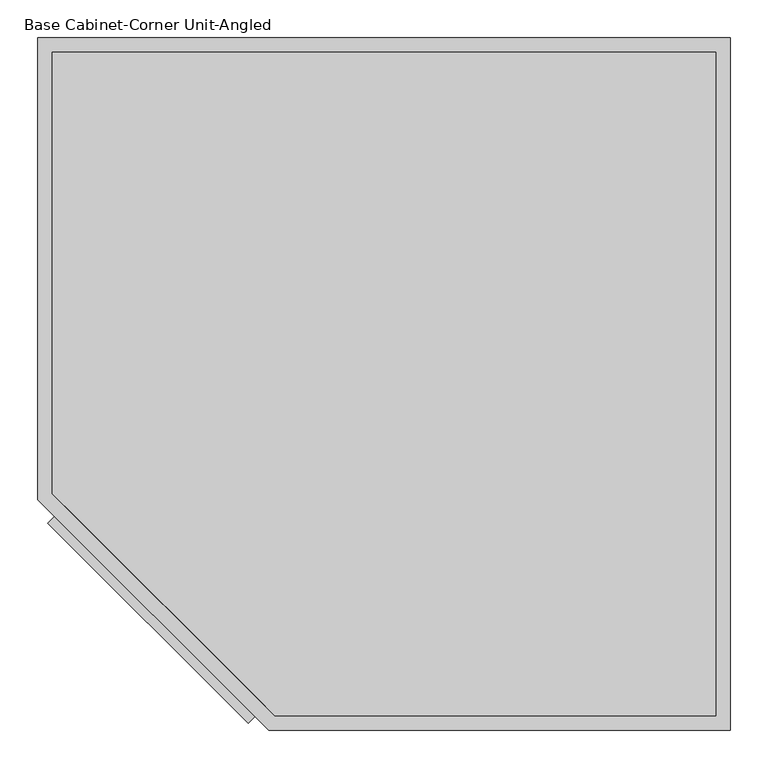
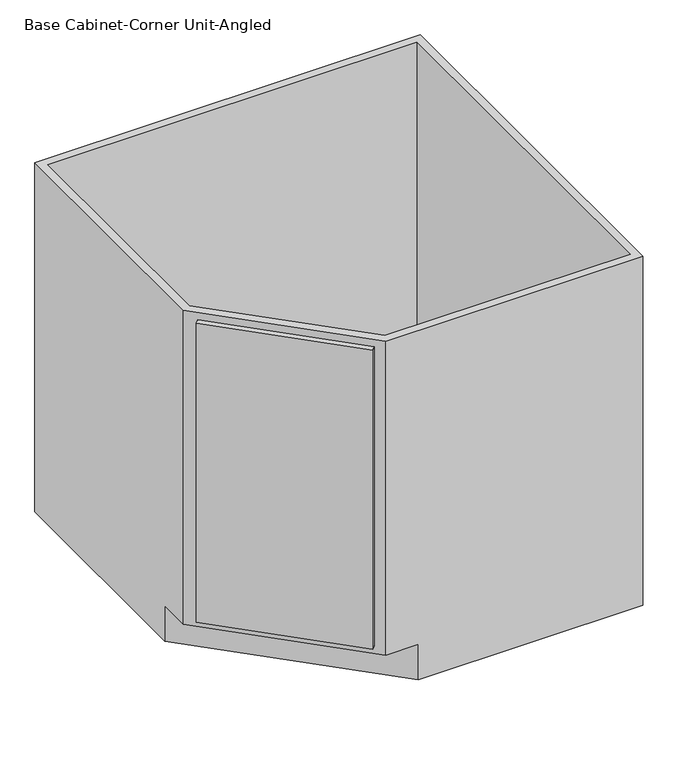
"""IFC4 building model written with IfcOpenShell, lengths in millimetres: furniture geometry, Base Cabinet-Corner Unit-Angled : WOODWFR."""

from ifc_helpers import new_model, si_unit, frame, origin, place, context, project, spatial, polyline, outline, extrude, faceted_brep, source, transform, mapped, element, save


def base_cabinet_corner_unit_angled_bfd559e3(model_context):
    return source(origin(), model_context, "Body", "SolidModel", [
        extrude(outline(polyline([(-109.5319116, -905.7284105), (-374.7303593, -641.0922321), (-352.3035566, -618.6177794), (-87.105109, -883.2539578), (-109.5319116, -905.7284105)])), frame((0.0, 0.0, 107.95), z_axis=(0.0, 0.0, 1.0), x_axis=(1.0, 0.0, 0.0)), (0.0, 0.0, 1.0), 749.3),
        faceted_brep([(526.7377049, 0.0, 876.3), (-387.6622951, 0.0, 876.3), (-387.6622951, -610.2462317, 876.3), (-82.8622951, -914.4, 876.3), (526.7377049, -914.4, 876.3), (-368.6122951, -602.3436184, 876.3), (-368.6122951, -19.05, 876.3), (507.6877049, -19.05, 876.3), (507.6877049, -895.35, 876.3), (-74.9833665, -895.35, 876.3), (-6.6622951, -914.4, 88.9), (-82.8622951, -914.4, 88.9), (-387.6622951, -610.2462317, 88.9), (-387.6622951, -534.0223805, 88.9), (-368.6122951, -553.0412615, 88.9), (-368.6122951, -602.3436184, 88.9), (-74.9833665, -895.35, 88.9), (-25.743465, -895.35, 88.9), (526.7377049, 0.0, 0.0), (-387.6622951, 0.0, 0.0), (-387.6622951, -534.0223805, 0.0), (-368.6122951, -19.05, 88.9), (507.6877049, -19.05, 88.9), (507.6877049, -895.35, 88.9), (-6.6622951, -914.4, 0.0), (526.7377049, -914.4, 0.0), (-100.5611906, -896.7386294, 857.25), (-100.5611906, -896.7386294, 107.95), (-365.7596382, -632.102451, 107.95), (-365.7596382, -632.102451, 857.25), (-87.105109, -883.2539578, 107.95), (-87.105109, -883.2539578, 857.25), (-352.3035566, -618.6177794, 857.25), (-352.3035566, -618.6177794, 107.95)], [[[0, 1, 2, 3, 4], [5, 6, 7, 8, 9]], [[10, 11, 12, 13, 14, 15, 16, 17]], [[1, 0, 18, 19]], [[2, 1, 19, 20, 13, 12]], [[6, 5, 15, 14, 21]], [[7, 6, 21, 22]], [[8, 7, 22, 23]], [[9, 8, 23, 17, 16]], [[4, 3, 11, 10, 24, 25]], [[0, 4, 25, 18]], [[14, 17, 23, 22, 21]], [[18, 25, 24, 20, 19]], [[20, 24, 10, 17, 14, 13]], [[3, 2, 12, 11], [26, 27, 28, 29]], [[5, 9, 16, 15], [30, 31, 32, 33]], [[30, 27, 26, 31]], [[27, 30, 33, 28]], [[28, 33, 32, 29]], [[31, 26, 29, 32]]]),
        extrude(outline(polyline([(507.6877049, -19.05), (507.6877049, -895.35), (-74.9833665, -895.35), (-368.6122951, -602.3436184), (-368.6122951, -19.05), (507.6877049, -19.05)])), frame((0.0, 0.0, 88.9), z_axis=(0.0, 0.0, 1.0), x_axis=(1.0, 0.0, 0.0)), (0.0, 0.0, 1.0), 19.05),
    ])


if __name__ == "__main__":
    model = new_model("IFC4")
    model_context = context("Model", 3, world=origin())
    ifc_project = project(units=[si_unit("LENGTHUNIT", "METRE", prefix="MILLI")], contexts=[model_context])
    site = spatial("IfcSite", under=ifc_project)
    building = spatial("IfcBuilding", under=site)
    placement = place(None, origin())
    base_cabinet_corner_unit_angled_shape = base_cabinet_corner_unit_angled_bfd559e3(model_context)
    element("IfcFurniture", 1, ObjectType="Base Cabinet-Corner Unit-Angled : WOODWFR", at=placement, inside=building, context=model_context, shape_type="MappedRepresentation", body=[
        mapped(base_cabinet_corner_unit_angled_shape, transform((0.0, 0.0, 0.0), x_axis=(1.0, 0.0, 0.0), y_axis=(0.0, 1.0, 0.0), z_axis=(0.0, 0.0, 1.0))),
    ])
    save(model, "model.ifc")
